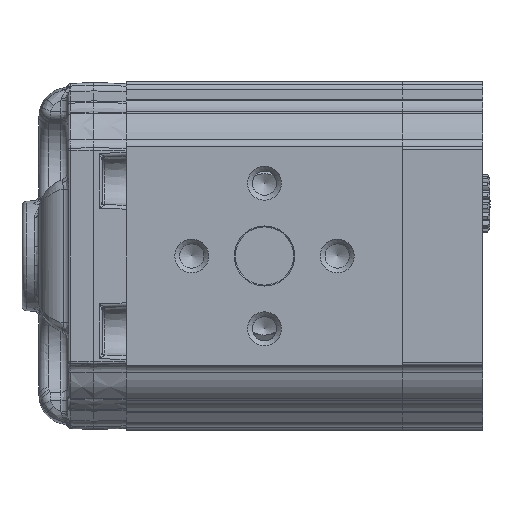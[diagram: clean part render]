
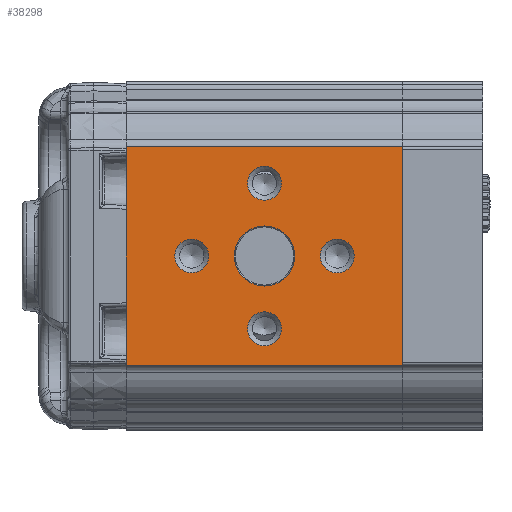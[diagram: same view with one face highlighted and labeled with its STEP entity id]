
A CAD part, left-side view. The second image highlights one B-rep face of the part: STEP entity #38298.
In plain terms, the highlighted planar face has unit normal (-1, 0, 0).
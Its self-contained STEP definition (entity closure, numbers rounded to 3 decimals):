
#1897=LINE('',#52201,#3331);
#1907=LINE('',#52302,#3341);
#1926=LINE('',#52350,#3360);
#1927=LINE('',#52352,#3361);
#3331=VECTOR('',#44098,1000.);
#3341=VECTOR('',#44190,1000.);
#3360=VECTOR('',#44245,1000.);
#3361=VECTOR('',#44248,1000.);
#6650=ORIENTED_EDGE('',*,*,#14406,.T.);
#6651=ORIENTED_EDGE('',*,*,#14407,.T.);
#6652=ORIENTED_EDGE('',*,*,#14408,.T.);
#6653=ORIENTED_EDGE('',*,*,#14409,.T.);
#6654=ORIENTED_EDGE('',*,*,#14410,.T.);
#6655=ORIENTED_EDGE('',*,*,#14386,.T.);
#6656=ORIENTED_EDGE('',*,*,#14358,.T.);
#6657=ORIENTED_EDGE('',*,*,#14387,.T.);
#6658=ORIENTED_EDGE('',*,*,#14308,.F.);
#14308=EDGE_CURVE('',#18317,#18318,#1897,.T.);
#14358=EDGE_CURVE('',#18368,#18367,#1907,.T.);
#14386=EDGE_CURVE('',#18317,#18368,#1926,.T.);
#14387=EDGE_CURVE('',#18367,#18318,#1927,.F.);
#14406=EDGE_CURVE('',#18387,#18387,#20808,.F.);
#14407=EDGE_CURVE('',#18388,#18388,#20809,.F.);
#14408=EDGE_CURVE('',#18389,#18389,#20810,.F.);
#14409=EDGE_CURVE('',#18390,#18390,#20811,.F.);
#14410=EDGE_CURVE('',#18391,#18391,#20812,.F.);
#18317=VERTEX_POINT('',#52200);
#18318=VERTEX_POINT('',#52202);
#18367=VERTEX_POINT('',#52301);
#18368=VERTEX_POINT('',#52303);
#18387=VERTEX_POINT('',#52475);
#18388=VERTEX_POINT('',#52477);
#18389=VERTEX_POINT('',#52479);
#18390=VERTEX_POINT('',#52481);
#18391=VERTEX_POINT('',#52483);
#20808=CIRCLE('',#40407,3.5);
#20809=CIRCLE('',#40408,3.5);
#20810=CIRCLE('',#40409,3.5);
#20811=CIRCLE('',#40410,3.5);
#20812=CIRCLE('',#40411,6.2);
#22295=EDGE_LOOP('',(#6650));
#22296=EDGE_LOOP('',(#6651));
#22297=EDGE_LOOP('',(#6652));
#22298=EDGE_LOOP('',(#6653));
#22299=EDGE_LOOP('',(#6654));
#22300=EDGE_LOOP('',(#6655,#6656,#6657,#6658));
#24263=FACE_BOUND('',#22295,.T.);
#24264=FACE_BOUND('',#22296,.T.);
#24265=FACE_BOUND('',#22297,.T.);
#24266=FACE_BOUND('',#22298,.T.);
#24267=FACE_BOUND('',#22299,.T.);
#24268=FACE_BOUND('',#22300,.T.);
#25975=PLANE('',#40406);
#38298=ADVANCED_FACE('',(#24263,#24264,#24265,#24266,#24267,#24268),#25975,
 .T.);
#40406=AXIS2_PLACEMENT_3D('',#52473,#44291,#44292);
#40407=AXIS2_PLACEMENT_3D('',#52474,#44293,#44294);
#40408=AXIS2_PLACEMENT_3D('',#52476,#44295,#44296);
#40409=AXIS2_PLACEMENT_3D('',#52478,#44297,#44298);
#40410=AXIS2_PLACEMENT_3D('',#52480,#44299,#44300);
#40411=AXIS2_PLACEMENT_3D('',#52482,#44301,#44302);
#44098=DIRECTION('',(0.,0.,1.));
#44190=DIRECTION('',(0.,0.,1.));
#44245=DIRECTION('',(0.,-1.,0.));
#44248=DIRECTION('',(0.,-1.,0.));
#44291=DIRECTION('',(-1.,0.,0.));
#44292=DIRECTION('',(0.,0.,1.));
#44293=DIRECTION('',(-1.,0.,0.));
#44294=DIRECTION('',(0.,0.,1.));
#44295=DIRECTION('',(-1.,0.,0.));
#44296=DIRECTION('',(0.,0.,1.));
#44297=DIRECTION('',(-1.,0.,0.));
#44298=DIRECTION('',(0.,0.,1.));
#44299=DIRECTION('',(-1.,0.,0.));
#44300=DIRECTION('',(0.,0.,1.));
#44301=DIRECTION('',(-1.,0.,0.));
#44302=DIRECTION('',(0.,0.,1.));
#52200=CARTESIAN_POINT('',(-33.,57.,-22.5));
#52201=CARTESIAN_POINT('',(-33.,57.,-21.711));
#52202=CARTESIAN_POINT('',(-33.,57.,22.5));
#52301=CARTESIAN_POINT('',(-33.,0.,22.5));
#52302=CARTESIAN_POINT('',(-33.,0.,-21.711));
#52303=CARTESIAN_POINT('',(-33.,0.,-22.5));
#52350=CARTESIAN_POINT('',(-33.,57.,-22.5));
#52352=CARTESIAN_POINT('',(-33.,57.,22.5));
#52473=CARTESIAN_POINT('',(-33.,130.814,48.138));
#52474=CARTESIAN_POINT('',(-33.,28.5,-15.));
#52475=CARTESIAN_POINT('',(-33.,28.5,-11.5));
#52476=CARTESIAN_POINT('',(-33.,13.5,0.));
#52477=CARTESIAN_POINT('',(-33.,13.5,3.5));
#52478=CARTESIAN_POINT('',(-33.,28.5,15.));
#52479=CARTESIAN_POINT('',(-33.,28.5,18.5));
#52480=CARTESIAN_POINT('',(-33.,43.5,0.));
#52481=CARTESIAN_POINT('',(-33.,43.5,3.5));
#52482=CARTESIAN_POINT('',(-33.,28.5,0.));
#52483=CARTESIAN_POINT('',(-33.,28.5,6.2));
